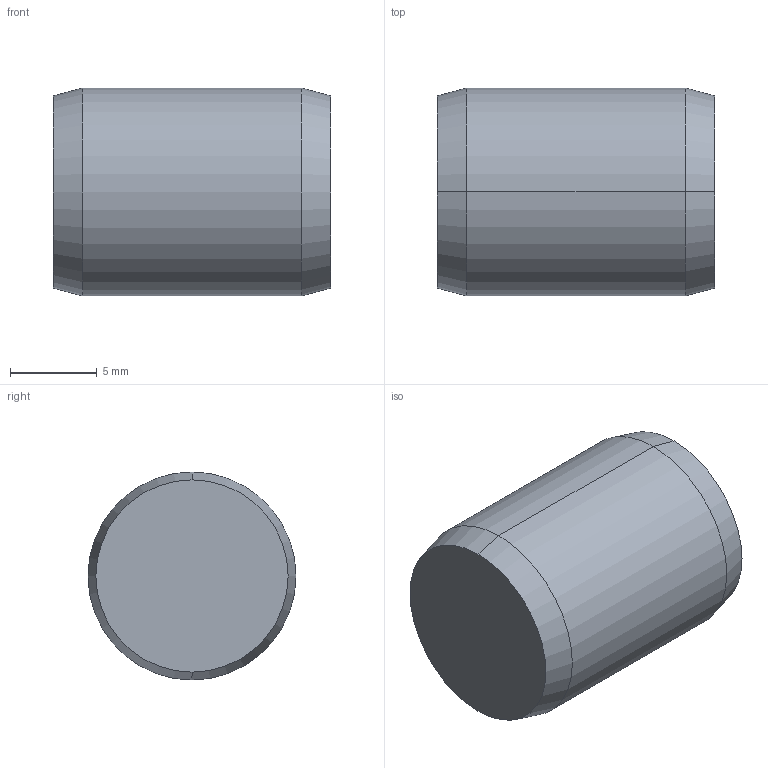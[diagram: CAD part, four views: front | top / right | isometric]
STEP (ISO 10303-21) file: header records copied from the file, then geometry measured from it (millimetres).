
FILE_DESCRIPTION (( 'STEP AP203' ), '1' );
FILE_NAME ('P1206.120-016.step', '2017-06-14T08:36:09', ( 'User' ), ( '' ), 'SwSTEP 2.0', 'SolidWorks 2009', '' );
FILE_SCHEMA (( 'CONFIG_CONTROL_DESIGN' ));
Length unit declared in the file: millimetre
Products named in the file (1): P1206.120-016
Bounding box: 16 x 12 x 12 mm (x, y, z)
Volume: 1781.1 mm3; surface area: 795.8 mm2
Topology: 1 solids, 1 shells, 8 faces, 14 edges, 8 vertices
Faces by surface type: cone 4, cylinder 2, plane 2
Entity records: 271 total; most frequent: DIRECTION 40, CARTESIAN_POINT 31, ORIENTED_EDGE 28, AXIS2_PLACEMENT_3D 17, EDGE_CURVE 14, PERSON_AND_ORGANIZATION 8, FACE_OUTER_BOUND 8, EDGE_LOOP 8
